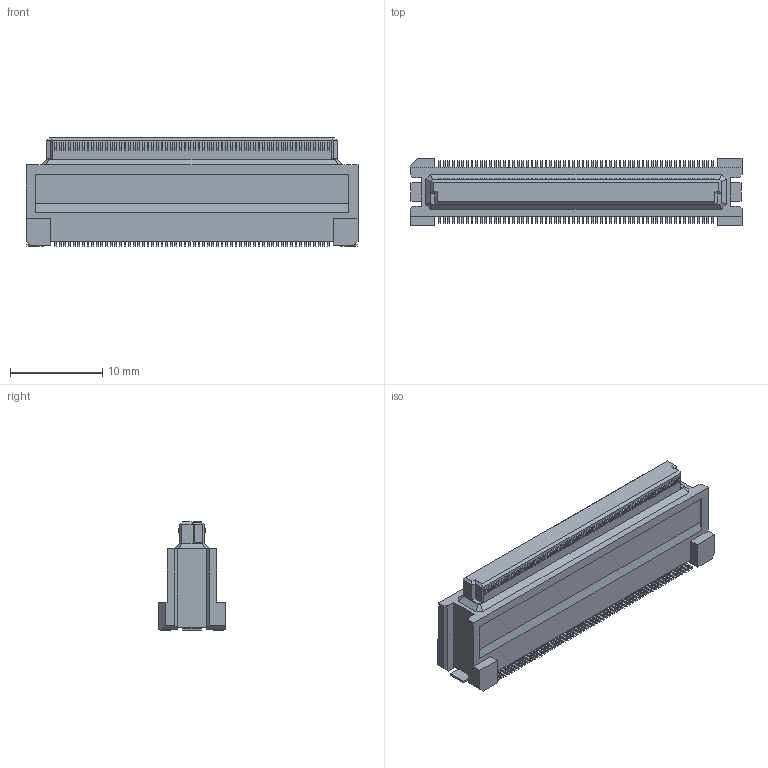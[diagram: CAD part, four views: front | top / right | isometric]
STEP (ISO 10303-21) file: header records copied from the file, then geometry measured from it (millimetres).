
FILE_DESCRIPTION(('Creo Elements/Direct Modeling STEP Export'),'2;1');
FILE_NAME('DY10-120FS-3.stp','2017-11-28T 9:37:38',(''),(''),'Creo Elements/Direct Modeling STEP processor for AP214 (Solid Model)','Creo Elements/Direct Modeling 19.0F 14-Feb-2017 (C) Parametric Technology GmbH','');
FILE_SCHEMA(('AUTOMOTIVE_DESIGN { 1 0 10303 214 1 1 1 1 }'));
Length unit declared in the file: millimetre
Products named in the file (2): DY10-120FS-3
Assembly tree (1 placements, depth 2):
  DY10-120FS-3
    DY10-120FS-3
Bounding box: 35.9 x 7.3 x 11.73 mm (x, y, z)
Volume: 1658.1 mm3; surface area: 1553.8 mm2
Topology: 1 solids, 1 shells, 1710 faces, 4713 edges, 3130 vertices
Faces by surface type: plane 1216, cylinder 486, bspline 8
Entity records: 54263 total; most frequent: CARTESIAN_POINT 10626, ORIENTED_EDGE 9426, DIRECTION 8595, EDGE_CURVE 4713, VECTOR 3717, LINE 3717, VERTEX_POINT 3130, AXIS2_PLACEMENT_3D 2439
